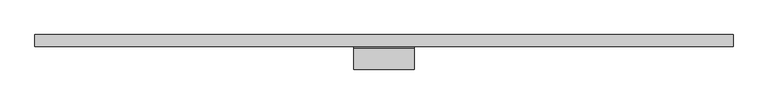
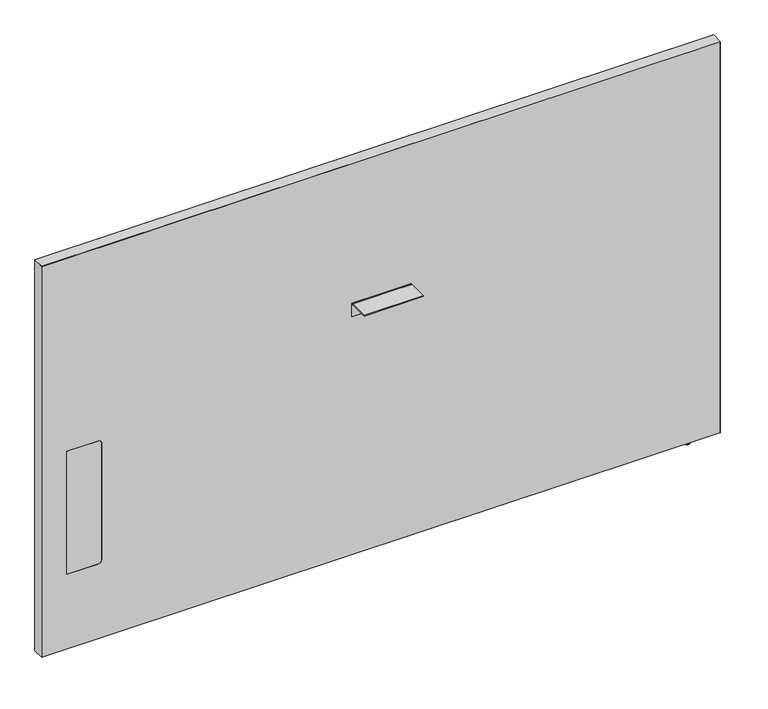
"""IFC4 building model written with IfcOpenShell, lengths in millimetres: furniture geometry, Steelcase - Answer Solution - Boundary Screen - Straight - Single Sided : 42H x 69W."""

from ifc_helpers import new_model, si_unit, point, frame, frame_2d, origin, place, context, project, spatial, polyline, circle_curve, ellipse_curve, trimmed, segment, composite_curve, outline, extrude, source, transform, mapped, element, save
from ifc_brep_helpers import plane_surface, cylinder_surface, revolved_surface, advanced_brep


def furniture_215d846a(model_context):
    return source(origin(), model_context, "Body", "SolidModel", [
        extrude(outline(composite_curve([segment(polyline([(-86.8398151, 696.4680019), (-86.8398151, 698.5), (-34.9450855, 698.5)]), True, "CONTINUOUS"), segment(trimmed(circle_curve(frame_2d((-34.9450855, 693.2447477)), 5.2552523), [point((-34.9450855, 698.5))], [point((-29.6898332, 693.2447477))], False, "CARTESIAN"), True, "CONTINUOUS"), segment(polyline([(-29.6898332, 693.2447477), (-29.6898332, 660.4), (-31.7218162, 660.4), (-31.7218162, 693.0058743)]), True, "CONTINUOUS"), segment(trimmed(circle_curve(frame_2d((-35.1839438, 693.0058743)), 3.4621276), [point((-31.7218162, 693.0058743))], [point((-35.1839438, 696.4680019))], True, "CARTESIAN"), True, "CONTINUOUS"), segment(polyline([(-35.1839438, 696.4680019), (-86.8398151, 696.4680019)]), True, "CONTINUOUS")], self_intersect=False)), frame((153.6191407, 0.0, 0.0), z_axis=(1.0, 0.0, 0.0), x_axis=(0.0, 1.0, 0.0)), (0.0, 0.0, 1.0), 152.4000969),
        advanced_brep(
        [(1028.9286488, -23.7588726, 9.9059849), (1028.9286488, -5.9309607, 9.9059849), (1028.9286488, -14.8449166, 9.9059849), (1028.9286488, -23.7588726, 2.9673238), (1028.9286488, -5.9309607, 2.9673238), (1028.9286488, -22.7915354, 2.9673238), (1028.9286488, -6.8982978, 2.9673238), (1028.9286488, -22.7915354, 1.6569081), (1028.9286488, -6.8982978, 1.6569081), (1028.9286488, -21.1346274, 0.0), (1028.9286488, -8.5552059, 0.0), (1028.9286488, -14.8449166, 0.0)],
        [
            (0, 1, circle_curve(frame((1028.9286488, -14.8449166, 9.9059849), z_axis=(0.0, 0.0, 1.0), x_axis=(0.0, 1.0, 0.0)), 8.913956)),
            (1, 2),
            (2, 0),
            (1, 0, circle_curve(frame((1028.9286488, -14.8449166, 9.9059849), z_axis=(0.0, 0.0, 1.0), x_axis=(0.0, 1.0, 0.0)), 8.913956)),
            (3, 4, circle_curve(frame((1028.9286488, -14.8449166, 2.9673238), z_axis=(0.0, 0.0, 1.0), x_axis=(0.0, 1.0, 0.0)), 8.913956)),
            (4, 1),
            (0, 3),
            (4, 3, circle_curve(frame((1028.9286488, -14.8449166, 2.9673238), z_axis=(0.0, 0.0, 1.0), x_axis=(0.0, 1.0, 0.0)), 8.913956)),
            (5, 6, circle_curve(frame((1028.9286488, -14.8449166, 2.9673238), z_axis=(0.0, 0.0, 1.0), x_axis=(0.0, 1.0, 0.0)), 7.9466188)),
            (6, 4),
            (3, 5),
            (6, 5, circle_curve(frame((1028.9286488, -14.8449166, 2.9673238), z_axis=(0.0, 0.0, 1.0), x_axis=(0.0, 1.0, 0.0)), 7.9466188)),
            (7, 8, circle_curve(frame((1028.9286488, -14.8449166, 1.6569081), z_axis=(0.0, 0.0, 1.0), x_axis=(0.0, 1.0, 0.0)), 7.9466188)),
            (8, 6),
            (5, 7),
            (8, 7, circle_curve(frame((1028.9286488, -14.8449166, 1.6569081), z_axis=(0.0, 0.0, 1.0), x_axis=(0.0, 1.0, 0.0)), 7.9466188)),
            (9, 10, circle_curve(frame((1028.9286488, -14.8449166, 0.0), z_axis=(0.0, 0.0, 1.0), x_axis=(0.0, 1.0, 0.0)), 6.2897107)),
            (10, 8, circle_curve(frame((1028.9286488, -8.5552059, 1.6569081), z_axis=(1.0, 0.0, 0.0), x_axis=(0.0, 1.0, 0.0)), 1.6569081)),
            (7, 9, circle_curve(frame((1028.9286488, -21.1346274, 1.6569081), z_axis=(1.0, 0.0, 0.0), x_axis=(0.0, -1.0, 0.0)), 1.6569081)),
            (10, 9, circle_curve(frame((1028.9286488, -14.8449166, 0.0), z_axis=(0.0, 0.0, 1.0), x_axis=(0.0, 1.0, 0.0)), 6.2897107)),
            (11, 10),
            (9, 11),
        ],
        [
            plane_surface(frame((1028.9286488, -14.8449166, 9.9059849), z_axis=(0.0, 0.0, 1.0), x_axis=(0.0, 1.0, 0.0))),
            cylinder_surface(frame((1028.9286488, -14.8449166, 9.9059849), z_axis=(0.0, 0.0, -1.0), x_axis=(0.0, 1.0, 0.0)), 8.913956),
            plane_surface(frame((1028.9286488, -14.8449166, 2.9673238), z_axis=(0.0, 0.0, -1.0), x_axis=(0.0, 1.0, 0.0))),
            cylinder_surface(frame((1028.9286488, -14.8449166, 9.9059849), z_axis=(0.0, 0.0, -1.0), x_axis=(0.0, 1.0, 0.0)), 7.9466188),
            revolved_surface(trimmed(ellipse_curve(frame((1028.9286488, -8.5552059, 1.6569081), z_axis=(-1.0, 0.0, 0.0), x_axis=(0.0, 1.0, 0.0)), 1.6569081, 1.6569081), [point((1028.9286488, -6.8982978, 1.6569081))], [point((1028.9286488, -8.5552059, 0.0))], True, "CARTESIAN"), (1028.9286488, -14.8449166, 9.9059849), (0.0, 0.0, -1.0)),
            plane_surface(frame((1028.9286488, -14.8449166, 0.0), z_axis=(0.0, 0.0, -1.0), x_axis=(0.0, 1.0, 0.0))),
        ],
        [
            (0, [[1, 2, 3]]),
            (0, [[4, -3, -2]]),
            (1, [[5, 6, -1, 7]]),
            (1, [[8, -7, -4, -6]]),
            (2, [[9, 10, -5, 11]]),
            (2, [[12, -11, -8, -10]]),
            (3, [[13, 14, -9, 15]]),
            (3, [[16, -15, -12, -14]]),
            (4, [[17, 18, -13, 19]]),
            (4, [[20, -19, -16, -18]]),
            (5, [[21, -17, 22]]),
            (5, [[-22, -20, -21]]),
        ],
    ),
        advanced_brep(
        [(1105.0780168, 0.0, 1076.742118), (1105.0780168, 0.0, 9.9059849), (-645.4902221, 0.0, 9.9059849), (-645.4902221, 0.0, 1076.742118), (1105.0780168, -29.6898332, 1076.742118), (-645.4902221, -29.6898332, 1076.742118), (-645.4902221, -29.6898332, 9.9059849), (1105.0780168, -29.6898332, 9.9059849), (-501.1463873, -29.6898332, 549.6162029), (-490.9863873, -29.6898332, 539.4562029), (-490.9863873, -29.6898332, 223.9362137), (-501.1463873, -29.6898332, 213.7762137), (-580.800285, -29.6898332, 213.7762137), (-580.800285, -29.6898332, 549.6162029), (-580.800285, -29.0550397, 549.6162029), (-501.1463873, -29.0550397, 549.6162029), (-580.800285, -29.0550397, 213.7762137), (-501.1463873, -29.0550397, 213.7762137), (-490.9863873, -29.0550397, 223.9362137), (-490.9863873, -29.0550397, 539.4562029)],
        [
            (0, 1),
            (1, 2),
            (2, 3),
            (3, 0),
            (4, 5),
            (5, 6),
            (6, 7),
            (7, 4),
            (8, 9, circle_curve(frame((-501.1463873, -29.6898332, 539.4562029), z_axis=(0.0, 1.0, 0.0), x_axis=(0.0, 0.0, 1.0)), 10.16)),
            (9, 10),
            (10, 11, circle_curve(frame((-501.1463873, -29.6898332, 223.9362137), z_axis=(0.0, 1.0, 0.0), x_axis=(0.0, 0.0, 1.0)), 10.16)),
            (11, 12),
            (12, 13),
            (13, 8),
            (0, 4),
            (7, 1),
            (6, 2),
            (5, 3),
            (13, 14),
            (14, 15),
            (15, 8),
            (12, 16),
            (16, 14),
            (11, 17),
            (17, 16),
            (10, 18),
            (18, 17, circle_curve(frame((-501.1463873, -29.0550397, 223.9362137), z_axis=(0.0, 1.0, 0.0), x_axis=(0.0, 0.0, 1.0)), 10.16)),
            (9, 19),
            (19, 18),
            (15, 19, circle_curve(frame((-501.1463873, -29.0550397, 539.4562029), z_axis=(0.0, 1.0, 0.0), x_axis=(0.0, 0.0, 1.0)), 10.16)),
        ],
        [
            plane_surface(frame((1105.0780168, 0.0, 1076.742118), z_axis=(0.0, 1.0, 0.0), x_axis=(0.0, 0.0, -1.0))),
            plane_surface(frame((1105.0780168, -29.6898332, 1076.742118), z_axis=(0.0, -1.0, 0.0), x_axis=(0.0, 0.0, 1.0))),
            plane_surface(frame((1105.0780168, 0.0, 1076.742118), z_axis=(1.0, 0.0, 0.0), x_axis=(0.0, -1.0, 0.0))),
            plane_surface(frame((1105.0780168, 0.0, 9.9059849), z_axis=(0.0, 0.0, -1.0), x_axis=(0.0, -1.0, 0.0))),
            plane_surface(frame((-645.4902221, 0.0, 9.9059849), z_axis=(-1.0, 0.0, 0.0), x_axis=(0.0, -1.0, 0.0))),
            plane_surface(frame((-645.4902221, 0.0, 1076.742118), z_axis=(0.0, 0.0, 1.0), x_axis=(0.0, -1.0, 0.0))),
            plane_surface(frame((-501.1463873, 0.0, 549.6162029), z_axis=(0.0, 0.0, -1.0), x_axis=(0.0, -1.0, 0.0))),
            plane_surface(frame((-580.800285, 0.0, 549.6162029), z_axis=(1.0, 0.0, 0.0), x_axis=(0.0, -1.0, 0.0))),
            plane_surface(frame((-580.800285, 0.0, 213.7762137), z_axis=(0.0, 0.0, 1.0), x_axis=(0.0, -1.0, 0.0))),
            revolved_surface(polyline([(-501.1463873, -29.6898332, 234.0962137), (-501.1463873, -29.0550397, 234.0962137)]), (-501.1463873, -29.6898332, 223.9362137), (0.0, -1.0, 0.0)),
            plane_surface(frame((-490.9863873, 0.0, 223.9362137), z_axis=(-1.0, 0.0, 0.0), x_axis=(0.0, -1.0, 0.0))),
            revolved_surface(polyline([(-501.1463873, -29.6898332, 549.6162029), (-501.1463873, -29.0550397, 549.6162029)]), (-501.1463873, -29.6898332, 539.4562029), (0.0, -1.0, 0.0)),
            plane_surface(frame((-490.9863873, -29.0550397, 629.172953), z_axis=(0.0, -1.0, 0.0), x_axis=(0.0, 0.0, 1.0))),
        ],
        [
            (0, [[1, 2, 3, 4]]),
            (1, [[5, 6, 7, 8], [9, 10, 11, 12, 13, 14]]),
            (2, [[-1, 15, -8, 16]]),
            (3, [[-2, -16, -7, 17]]),
            (4, [[-3, -17, -6, 18]]),
            (5, [[-4, -18, -5, -15]]),
            (6, [[-14, 19, 20, 21]]),
            (7, [[-13, 22, 23, -19]]),
            (8, [[-12, 24, 25, -22]]),
            (9, [[-11, 26, 27, -24]]),
            (10, [[-10, 28, 29, -26]]),
            (11, [[-9, -21, 30, -28]]),
            (12, [[-20, -23, -25, -27, -29, -30]]),
        ],
    ),
        extrude(outline(composite_curve([segment(polyline([(549.6162029, -501.1463873), (549.6162029, -580.800285), (213.7762137, -580.800285), (213.7762137, -501.1463873)]), True, "CONTINUOUS"), segment(trimmed(circle_curve(frame_2d((223.9362137, -501.1463873)), 10.16), [point((213.7762137, -501.1463873))], [point((223.9362137, -490.9863873))], False, "CARTESIAN"), True, "CONTINUOUS"), segment(polyline([(223.9362137, -490.9863873), (539.4562029, -490.9863873)]), True, "CONTINUOUS"), segment(trimmed(circle_curve(frame_2d((539.4562029, -501.1463873)), 10.16), [point((539.4562029, -490.9863873))], [point((549.6162029, -501.1463873))], False, "CARTESIAN"), True, "CONTINUOUS")], self_intersect=False)), frame((0.0, -29.6898332, 0.0), z_axis=(0.0, 1.0, 0.0), x_axis=(0.0, 0.0, 1.0)), (0.0, 0.0, 1.0), 0.6347935),
        extrude(outline(polyline([(1077.722, 1106.1191891), (1077.722, -646.4808109), (9.9059849, -646.4808109), (9.9059849, -645.4902221), (1076.742118, -645.4902221), (1076.742118, 1105.0780168), (9.9059849, 1105.0780168), (9.9059849, 1106.1191891), (1077.722, 1106.1191891)])), frame((0.0, -29.6898332, 0.0), z_axis=(0.0, 1.0, 0.0), x_axis=(0.0, 0.0, 1.0)), (0.0, 0.0, 1.0), 29.6898332),
    ])


if __name__ == "__main__":
    model = new_model("IFC4")
    model_context = context("Model", 3, world=origin())
    ifc_project = project(units=[si_unit("LENGTHUNIT", "METRE", prefix="MILLI")], contexts=[model_context])
    site = spatial("IfcSite", under=ifc_project)
    building = spatial("IfcBuilding", under=site)
    placement = place(None, origin())
    furniture_shape = furniture_215d846a(model_context)
    element("IfcFurniture", 1, ObjectType="Steelcase - Answer Solution - Boundary Screen - Straight - Single Sided : 42H x 69W", at=placement, inside=building, context=model_context, shape_type="MappedRepresentation", body=[
        mapped(furniture_shape, transform((0.0, 0.0, 0.0), x_axis=(1.0, 0.0, 0.0), y_axis=(0.0, 1.0, 0.0), z_axis=(0.0, 0.0, 1.0))),
    ])
    save(model, "model.ifc")
